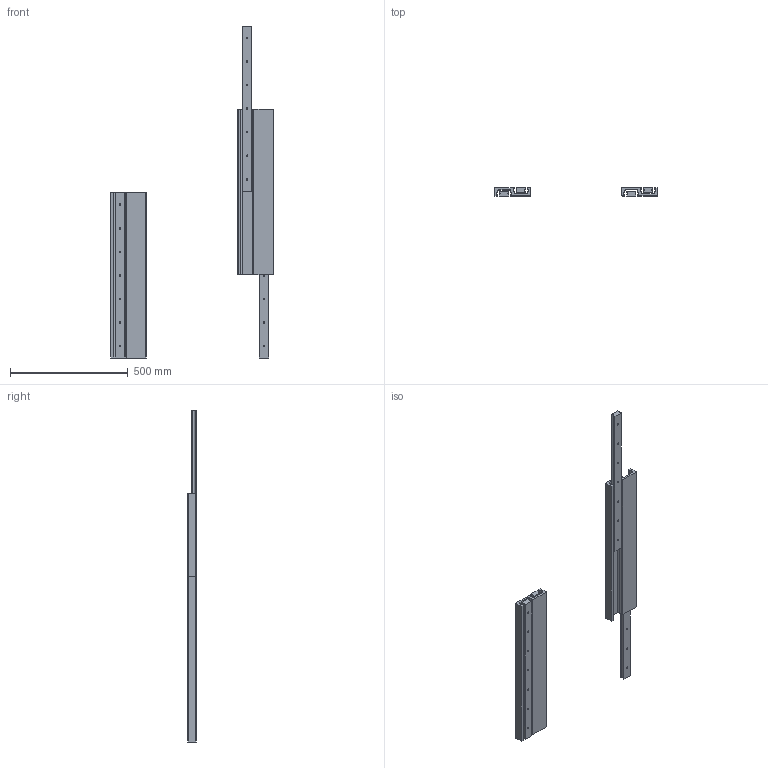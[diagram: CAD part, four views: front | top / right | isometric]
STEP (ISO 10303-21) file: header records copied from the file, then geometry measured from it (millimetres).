
FILE_DESCRIPTION((''),'2;1');
FILE_NAME('D:\01 WORK\DIST\02172A-Drawings for website\4140\STEP\4140-0070.stp','2008-10-24T11:44:31',('jtaylor'),(''),'Autodesk Inventor 2009','Autodesk Inventor 2009','');
FILE_SCHEMA(('AUTOMOTIVE_DESIGN { 1 0 10303 214 1 1 1 1 }'));
Length unit declared in the file: millimetre
Products named in the file (3): 4140-0070; 4140-0070 IM; 4140-0070 OM
Assembly tree (6 placements, depth 2):
  4140-0070
    4140-0070 IM  x4
    4140-0070 OM  x2
Bounding box: 689 x 38 x 1407 mm (x, y, z)
Volume: 5084754.6 mm3; surface area: 1035005.2 mm2
Topology: 6 solids, 6 shells, 136 faces, 400 edges, 276 vertices
Faces by surface type: plane 68, cylinder 40, bspline 28
Entity records: 1850 total; most frequent: CARTESIAN_POINT 407, DIRECTION 290, ORIENTED_EDGE 268, EDGE_CURVE 134, AXIS2_PLACEMENT_3D 103, VERTEX_POINT 94, VECTOR 84, LINE 84
